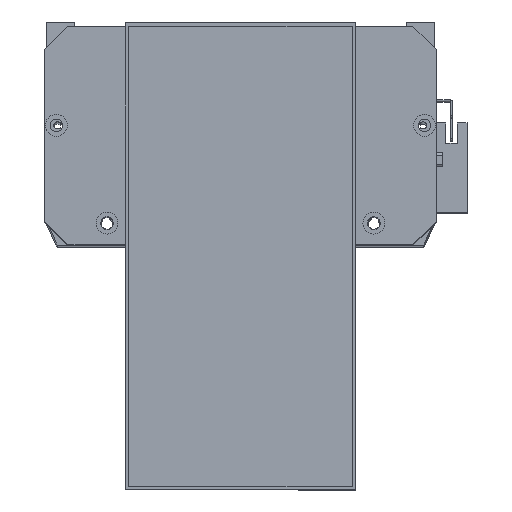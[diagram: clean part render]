
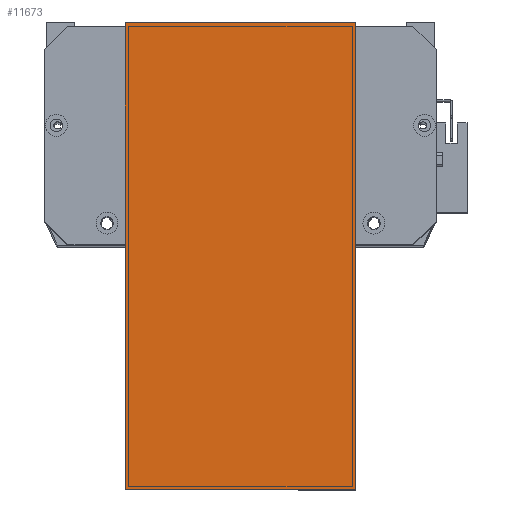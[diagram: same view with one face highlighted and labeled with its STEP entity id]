
A CAD part, top view. The second image highlights one B-rep face of the part: STEP entity #11673.
In plain terms, the highlighted planar face has unit normal (0, 0, 1) as drawn and (0, 0, -1) by its records, which use the part's own axes.
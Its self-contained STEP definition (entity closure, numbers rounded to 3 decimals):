
#32 = LINE ( 'NONE', #8670, #21319 ) ;
#168 = LINE ( 'NONE', #23612, #21453 ) ;
#253 = LINE ( 'NONE', #7336, #12223 ) ;
#422 = ORIENTED_EDGE ( 'NONE', *, *, #7728, .F. ) ;
#1260 = DIRECTION ( 'NONE',  ( 0., 0., -1. ) ) ;
#1303 = FACE_OUTER_BOUND ( 'NONE', #16842, .T. ) ;
#3298 = PLANE ( 'NONE',  #15310 ) ;
#3856 = CARTESIAN_POINT ( 'NONE',  ( 203., 119.5, 0. ) ) ;
#4458 = CARTESIAN_POINT ( 'NONE',  ( 203., 19.5, 0. ) ) ;
#4511 = CARTESIAN_POINT ( 'NONE',  ( 0., 119.5, 0. ) ) ;
#4591 = CARTESIAN_POINT ( 'NONE',  ( 0., 19.5, 0. ) ) ;
#4764 = ORIENTED_EDGE ( 'NONE', *, *, #27463, .T. ) ;
#5732 = VERTEX_POINT ( 'NONE', #4591 ) ;
#5857 = EDGE_CURVE ( 'NONE', #5732, #13829, #26957, .T. ) ;
#7123 = CARTESIAN_POINT ( 'NONE',  ( -12., 19.5, 0. ) ) ;
#7336 = CARTESIAN_POINT ( 'NONE',  ( -12., 119.5, 0. ) ) ;
#7728 = EDGE_CURVE ( 'NONE', #8395, #5732, #168, .T. ) ;
#8395 = VERTEX_POINT ( 'NONE', #4511 ) ;
#8670 = CARTESIAN_POINT ( 'NONE',  ( 203., 0., 0. ) ) ;
#10817 = DIRECTION ( 'NONE',  ( 0., 1., 0. ) ) ;
#11673 = ADVANCED_FACE ( 'NONE', ( #1303 ), #3298, .T. ) ;
#12223 = VECTOR ( 'NONE', #22226, 1000. ) ;
#12995 = DIRECTION ( 'NONE',  ( 0., -1., 0. ) ) ;
#13829 = VERTEX_POINT ( 'NONE', #4458 ) ;
#13992 = CARTESIAN_POINT ( 'NONE',  ( 0., 0., 0. ) ) ;
#14540 = ORIENTED_EDGE ( 'NONE', *, *, #25528, .F. ) ;
#15310 = AXIS2_PLACEMENT_3D ( 'NONE', #13992, #1260, #16134 ) ;
#16134 = DIRECTION ( 'NONE',  ( -1., 0., 0. ) ) ;
#16842 = EDGE_LOOP ( 'NONE', ( #19720, #422, #4764, #14540 ) ) ;
#18930 = VERTEX_POINT ( 'NONE', #3856 ) ;
#19720 = ORIENTED_EDGE ( 'NONE', *, *, #5857, .F. ) ;
#21280 = VECTOR ( 'NONE', #22011, 1000. ) ;
#21319 = VECTOR ( 'NONE', #10817, 1000. ) ;
#21453 = VECTOR ( 'NONE', #12995, 1000. ) ;
#22011 = DIRECTION ( 'NONE',  ( 1., 0., 0. ) ) ;
#22226 = DIRECTION ( 'NONE',  ( 1., 0., 0. ) ) ;
#23612 = CARTESIAN_POINT ( 'NONE',  ( 0., 0., 0. ) ) ;
#25528 = EDGE_CURVE ( 'NONE', #13829, #18930, #32, .T. ) ;
#26957 = LINE ( 'NONE', #7123, #21280 ) ;
#27463 = EDGE_CURVE ( 'NONE', #8395, #18930, #253, .T. ) ;
